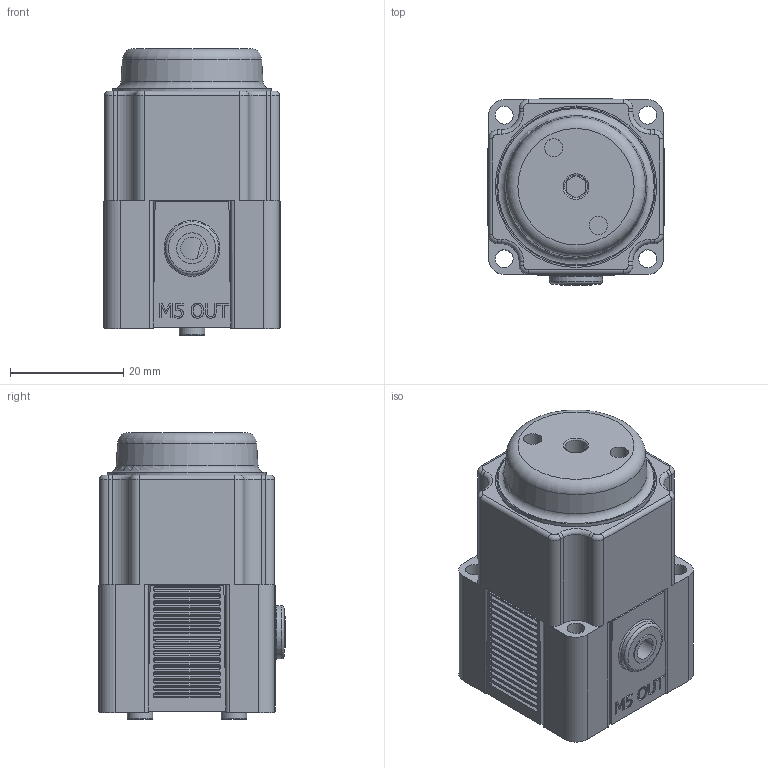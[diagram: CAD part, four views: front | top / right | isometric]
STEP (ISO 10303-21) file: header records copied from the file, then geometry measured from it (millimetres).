
FILE_DESCRIPTION(/* description */ (''),/* implementation_level */ '2;1');
FILE_NAME(/* name */ 'K:\Normteile INVENTOR\Air-Logic\Regulators\PR6000\PR 6___ S M5 Threads Out.igs.ipt.stp',/* time_stamp */ '2020-05-27T10:53:39+02:00',/* author */ ('Paul'),/* organization */ (''),/* preprocessor_version */ 'ST-DEVELOPER v18',/* originating_system */ 'Autodesk Inventor 2020',/* authorisation */ '');
FILE_SCHEMA (('AUTOMOTIVE_DESIGN { 1 0 10303 214 3 1 1 }'));
Length unit declared in the file: inch
Products named in the file (1): PR 6___ S M5 Threads Out.igs
Bounding box: 31.19 x 32.97 x 50.78 mm (x, y, z)
Volume: 38969.3 mm3; surface area: 12755.9 mm2
Topology: 1 solids, 1 shells, 718 faces, 1859 edges, 1224 vertices
Faces by surface type: plane 360, cylinder 269, bspline 55, torus 31, cone 3
Full cylindrical faces by diameter (mm): 1.194 x1, 2.032 x1, 3.124 x2, 3.175 x8, 3.226 x2, 3.962 x1, 4.013 x1, 4.521 x2, 5.486 x1, 6.248 x1, 8.382 x2, 9.169 x1, 9.398 x1, 9.652 x1, 12.903 x1, 25.781 x1, 28.047 x1, 28.575 x1
Entity records: 26104 total; most frequent: CARTESIAN_POINT 7506, DIRECTION 3789, ORIENTED_EDGE 3718, EDGE_CURVE 1859, AXIS2_PLACEMENT_3D 1467, VERTEX_POINT 1224, LINE 855, VECTOR 855
